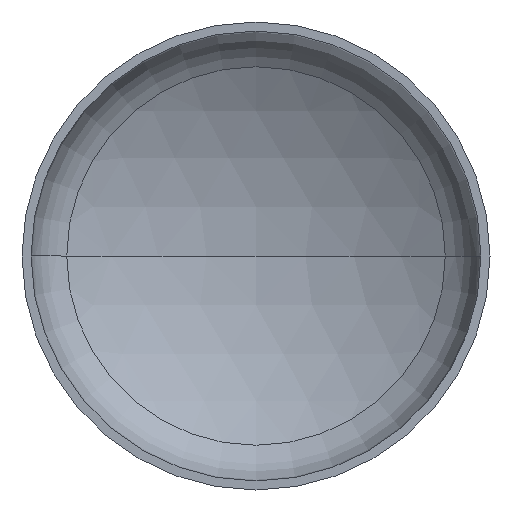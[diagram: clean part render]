
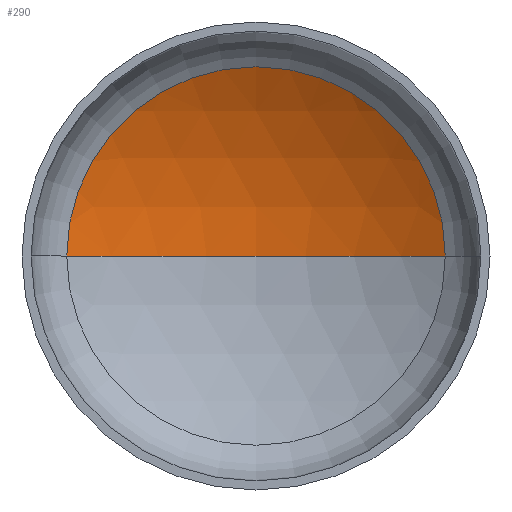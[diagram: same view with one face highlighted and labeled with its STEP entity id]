
A CAD part, front view. The second image highlights one B-rep face of the part: STEP entity #290.
In plain terms, the highlighted spherical face has radius 3040 mm.
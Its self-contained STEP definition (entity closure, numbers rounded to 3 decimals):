
#6 = AXIS2_PLACEMENT_3D ( 'NONE', #42, #262, #244 ) ;
#13 = ORIENTED_EDGE ( 'NONE', *, *, #70, .T. ) ;
#27 = AXIS2_PLACEMENT_3D ( 'NONE', #153, #326, #191 ) ;
#29 = AXIS2_PLACEMENT_3D ( 'NONE', #320, #143, #279 ) ;
#30 = AXIS2_PLACEMENT_3D ( 'NONE', #384, #233, #258 ) ;
#36 = ORIENTED_EDGE ( 'NONE', *, *, #78, .F. ) ;
#42 = CARTESIAN_POINT ( 'NONE',  ( 0., -1998.241, 0. ) ) ;
#68 = EDGE_CURVE ( 'NONE', #150, #151, #339, .T. ) ;
#70 = EDGE_CURVE ( 'NONE', #89, #150, #277, .T. ) ;
#78 = EDGE_CURVE ( 'NONE', #89, #151, #217, .T. ) ;
#89 = VERTEX_POINT ( 'NONE', #90 ) ;
#90 = CARTESIAN_POINT ( 'NONE',  ( 0., 1041.759, 0. ) ) ;
#115 = EDGE_LOOP ( 'NONE', ( #36, #13, #140 ) ) ;
#140 = ORIENTED_EDGE ( 'NONE', *, *, #68, .T. ) ;
#143 = DIRECTION ( 'NONE',  ( 0., 0., -1. ) ) ;
#144 = CARTESIAN_POINT ( 'NONE',  ( -1536.717, 624.754, 0. ) ) ;
#150 = VERTEX_POINT ( 'NONE', #395 ) ;
#151 = VERTEX_POINT ( 'NONE', #144 ) ;
#153 = CARTESIAN_POINT ( 'NONE',  ( 0., -1998.241, 0. ) ) ;
#191 = DIRECTION ( 'NONE',  ( 1., 0., 0. ) ) ;
#217 = CIRCLE ( 'NONE', #27, 3040. ) ;
#233 = DIRECTION ( 'NONE',  ( 0., -1., 0. ) ) ;
#244 = DIRECTION ( 'NONE',  ( -1., 0., 0. ) ) ;
#258 = DIRECTION ( 'NONE',  ( 1., 0., 0. ) ) ;
#262 = DIRECTION ( 'NONE',  ( 0., 0., -1. ) ) ;
#277 = CIRCLE ( 'NONE', #29, 3040. ) ;
#279 = DIRECTION ( 'NONE',  ( -1., 0., 0. ) ) ;
#290 = ADVANCED_FACE ( 'NONE', ( #371 ), #380, .F. ) ;
#320 = CARTESIAN_POINT ( 'NONE',  ( 0., -1998.241, 0. ) ) ;
#326 = DIRECTION ( 'NONE',  ( 0., 0., 1. ) ) ;
#339 = CIRCLE ( 'NONE', #30, 1536.717 ) ;
#371 = FACE_OUTER_BOUND ( 'NONE', #115, .T. ) ;
#380 = SPHERICAL_SURFACE ( 'NONE', #6, 3040. ) ;
#384 = CARTESIAN_POINT ( 'NONE',  ( 0., 624.754, 0. ) ) ;
#395 = CARTESIAN_POINT ( 'NONE',  ( 1536.717, 624.754, 0. ) ) ;
